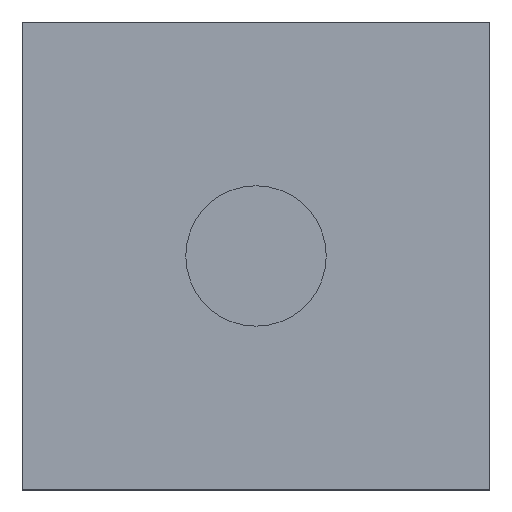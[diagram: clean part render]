
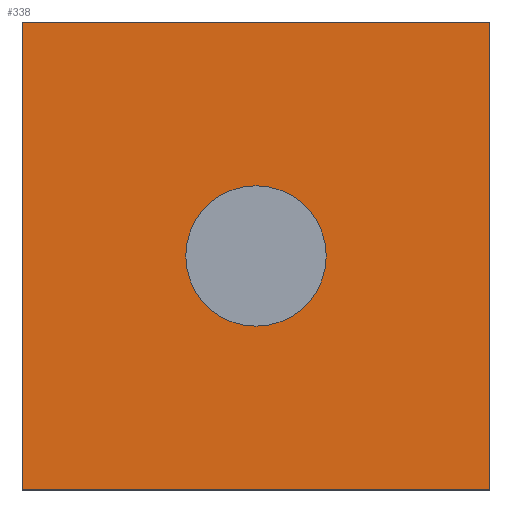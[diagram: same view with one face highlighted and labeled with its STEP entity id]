
A CAD part, top view. The second image highlights one B-rep face of the part: STEP entity #338.
In plain terms, the highlighted planar face has unit normal (0, 0, 1).
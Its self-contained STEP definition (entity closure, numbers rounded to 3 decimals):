
#24 = VERTEX_POINT('',#25);
#25 = CARTESIAN_POINT('',(0.,0.,0.5));
#32 = PLANE('',#33);
#33 = AXIS2_PLACEMENT_3D('',#34,#35,#36);
#34 = CARTESIAN_POINT('',(0.,0.,0.));
#35 = DIRECTION('',(1.,0.,-0.));
#36 = DIRECTION('',(0.,0.,1.));
#44 = PLANE('',#45);
#45 = AXIS2_PLACEMENT_3D('',#46,#47,#48);
#46 = CARTESIAN_POINT('',(0.,0.,0.));
#47 = DIRECTION('',(-0.,1.,0.));
#48 = DIRECTION('',(0.,0.,1.));
#85 = VERTEX_POINT('',#86);
#86 = CARTESIAN_POINT('',(0.,10.,0.5));
#100 = PLANE('',#101);
#101 = AXIS2_PLACEMENT_3D('',#102,#103,#104);
#102 = CARTESIAN_POINT('',(0.,10.,0.));
#103 = DIRECTION('',(-0.,1.,0.));
#104 = DIRECTION('',(0.,0.,1.));
#112 = EDGE_CURVE('',#24,#85,#113,.T.);
#113 = SURFACE_CURVE('',#114,(#118,#125),.PCURVE_S1.);
#114 = LINE('',#115,#116);
#115 = CARTESIAN_POINT('',(0.,0.,0.5));
#116 = VECTOR('',#117,1.);
#117 = DIRECTION('',(-0.,1.,0.));
#118 = PCURVE('',#32,#119);
#119 = DEFINITIONAL_REPRESENTATION('',(#120),#124);
#120 = LINE('',#121,#122);
#121 = CARTESIAN_POINT('',(0.5,0.));
#122 = VECTOR('',#123,1.);
#123 = DIRECTION('',(0.,-1.));
#124 = ( GEOMETRIC_REPRESENTATION_CONTEXT(2) 
PARAMETRIC_REPRESENTATION_CONTEXT() REPRESENTATION_CONTEXT('2D SPACE',''
  ) );
#125 = PCURVE('',#126,#131);
#126 = PLANE('',#127);
#127 = AXIS2_PLACEMENT_3D('',#128,#129,#130);
#128 = CARTESIAN_POINT('',(0.,0.,0.5));
#129 = DIRECTION('',(0.,0.,1.));
#130 = DIRECTION('',(1.,0.,-0.));
#131 = DEFINITIONAL_REPRESENTATION('',(#132),#136);
#132 = LINE('',#133,#134);
#133 = CARTESIAN_POINT('',(0.,0.));
#134 = VECTOR('',#135,1.);
#135 = DIRECTION('',(0.,1.));
#136 = ( GEOMETRIC_REPRESENTATION_CONTEXT(2) 
PARAMETRIC_REPRESENTATION_CONTEXT() REPRESENTATION_CONTEXT('2D SPACE',''
  ) );
#144 = VERTEX_POINT('',#145);
#145 = CARTESIAN_POINT('',(10.,0.,0.5));
#152 = PLANE('',#153);
#153 = AXIS2_PLACEMENT_3D('',#154,#155,#156);
#154 = CARTESIAN_POINT('',(10.,0.,0.));
#155 = DIRECTION('',(1.,0.,-0.));
#156 = DIRECTION('',(0.,0.,1.));
#195 = VERTEX_POINT('',#196);
#196 = CARTESIAN_POINT('',(10.,10.,0.5));
#217 = EDGE_CURVE('',#144,#195,#218,.T.);
#218 = SURFACE_CURVE('',#219,(#223,#230),.PCURVE_S1.);
#219 = LINE('',#220,#221);
#220 = CARTESIAN_POINT('',(10.,0.,0.5));
#221 = VECTOR('',#222,1.);
#222 = DIRECTION('',(-0.,1.,0.));
#223 = PCURVE('',#152,#224);
#224 = DEFINITIONAL_REPRESENTATION('',(#225),#229);
#225 = LINE('',#226,#227);
#226 = CARTESIAN_POINT('',(0.5,0.));
#227 = VECTOR('',#228,1.);
#228 = DIRECTION('',(0.,-1.));
#229 = ( GEOMETRIC_REPRESENTATION_CONTEXT(2) 
PARAMETRIC_REPRESENTATION_CONTEXT() REPRESENTATION_CONTEXT('2D SPACE',''
  ) );
#230 = PCURVE('',#126,#231);
#231 = DEFINITIONAL_REPRESENTATION('',(#232),#236);
#232 = LINE('',#233,#234);
#233 = CARTESIAN_POINT('',(10.,0.));
#234 = VECTOR('',#235,1.);
#235 = DIRECTION('',(0.,1.));
#236 = ( GEOMETRIC_REPRESENTATION_CONTEXT(2) 
PARAMETRIC_REPRESENTATION_CONTEXT() REPRESENTATION_CONTEXT('2D SPACE',''
  ) );
#263 = EDGE_CURVE('',#24,#144,#264,.T.);
#264 = SURFACE_CURVE('',#265,(#269,#276),.PCURVE_S1.);
#265 = LINE('',#266,#267);
#266 = CARTESIAN_POINT('',(0.,0.,0.5));
#267 = VECTOR('',#268,1.);
#268 = DIRECTION('',(1.,0.,-0.));
#269 = PCURVE('',#44,#270);
#270 = DEFINITIONAL_REPRESENTATION('',(#271),#275);
#271 = LINE('',#272,#273);
#272 = CARTESIAN_POINT('',(0.5,0.));
#273 = VECTOR('',#274,1.);
#274 = DIRECTION('',(0.,1.));
#275 = ( GEOMETRIC_REPRESENTATION_CONTEXT(2) 
PARAMETRIC_REPRESENTATION_CONTEXT() REPRESENTATION_CONTEXT('2D SPACE',''
  ) );
#276 = PCURVE('',#126,#277);
#277 = DEFINITIONAL_REPRESENTATION('',(#278),#282);
#278 = LINE('',#279,#280);
#279 = CARTESIAN_POINT('',(0.,0.));
#280 = VECTOR('',#281,1.);
#281 = DIRECTION('',(1.,0.));
#282 = ( GEOMETRIC_REPRESENTATION_CONTEXT(2) 
PARAMETRIC_REPRESENTATION_CONTEXT() REPRESENTATION_CONTEXT('2D SPACE',''
  ) );
#310 = EDGE_CURVE('',#85,#195,#311,.T.);
#311 = SURFACE_CURVE('',#312,(#316,#323),.PCURVE_S1.);
#312 = LINE('',#313,#314);
#313 = CARTESIAN_POINT('',(0.,10.,0.5));
#314 = VECTOR('',#315,1.);
#315 = DIRECTION('',(1.,0.,-0.));
#316 = PCURVE('',#100,#317);
#317 = DEFINITIONAL_REPRESENTATION('',(#318),#322);
#318 = LINE('',#319,#320);
#319 = CARTESIAN_POINT('',(0.5,0.));
#320 = VECTOR('',#321,1.);
#321 = DIRECTION('',(0.,1.));
#322 = ( GEOMETRIC_REPRESENTATION_CONTEXT(2) 
PARAMETRIC_REPRESENTATION_CONTEXT() REPRESENTATION_CONTEXT('2D SPACE',''
  ) );
#323 = PCURVE('',#126,#324);
#324 = DEFINITIONAL_REPRESENTATION('',(#325),#329);
#325 = LINE('',#326,#327);
#326 = CARTESIAN_POINT('',(0.,10.));
#327 = VECTOR('',#328,1.);
#328 = DIRECTION('',(1.,0.));
#329 = ( GEOMETRIC_REPRESENTATION_CONTEXT(2) 
PARAMETRIC_REPRESENTATION_CONTEXT() REPRESENTATION_CONTEXT('2D SPACE',''
  ) );
#338 = ADVANCED_FACE('',(#339,#345),#126,.T.);
#339 = FACE_BOUND('',#340,.T.);
#340 = EDGE_LOOP('',(#341,#342,#343,#344));
#341 = ORIENTED_EDGE('',*,*,#112,.F.);
#342 = ORIENTED_EDGE('',*,*,#263,.T.);
#343 = ORIENTED_EDGE('',*,*,#217,.T.);
#344 = ORIENTED_EDGE('',*,*,#310,.F.);
#345 = FACE_BOUND('',#346,.T.);
#346 = EDGE_LOOP('',(#347));
#347 = ORIENTED_EDGE('',*,*,#348,.F.);
#348 = EDGE_CURVE('',#349,#349,#351,.T.);
#349 = VERTEX_POINT('',#350);
#350 = CARTESIAN_POINT('',(6.5,5.,0.5));
#351 = SURFACE_CURVE('',#352,(#357,#364),.PCURVE_S1.);
#352 = CIRCLE('',#353,1.5);
#353 = AXIS2_PLACEMENT_3D('',#354,#355,#356);
#354 = CARTESIAN_POINT('',(5.,5.,0.5));
#355 = DIRECTION('',(0.,0.,1.));
#356 = DIRECTION('',(1.,0.,-0.));
#357 = PCURVE('',#126,#358);
#358 = DEFINITIONAL_REPRESENTATION('',(#359),#363);
#359 = CIRCLE('',#360,1.5);
#360 = AXIS2_PLACEMENT_2D('',#361,#362);
#361 = CARTESIAN_POINT('',(5.,5.));
#362 = DIRECTION('',(1.,0.));
#363 = ( GEOMETRIC_REPRESENTATION_CONTEXT(2) 
PARAMETRIC_REPRESENTATION_CONTEXT() REPRESENTATION_CONTEXT('2D SPACE',''
  ) );
#364 = PCURVE('',#365,#370);
#365 = PLANE('',#366);
#366 = AXIS2_PLACEMENT_3D('',#367,#368,#369);
#367 = CARTESIAN_POINT('',(5.,5.,0.5));
#368 = DIRECTION('',(0.,0.,1.));
#369 = DIRECTION('',(1.,0.,-0.));
#370 = DEFINITIONAL_REPRESENTATION('',(#371),#375);
#371 = CIRCLE('',#372,1.5);
#372 = AXIS2_PLACEMENT_2D('',#373,#374);
#373 = CARTESIAN_POINT('',(0.,0.));
#374 = DIRECTION('',(1.,0.));
#375 = ( GEOMETRIC_REPRESENTATION_CONTEXT(2) 
PARAMETRIC_REPRESENTATION_CONTEXT() REPRESENTATION_CONTEXT('2D SPACE',''
  ) );
